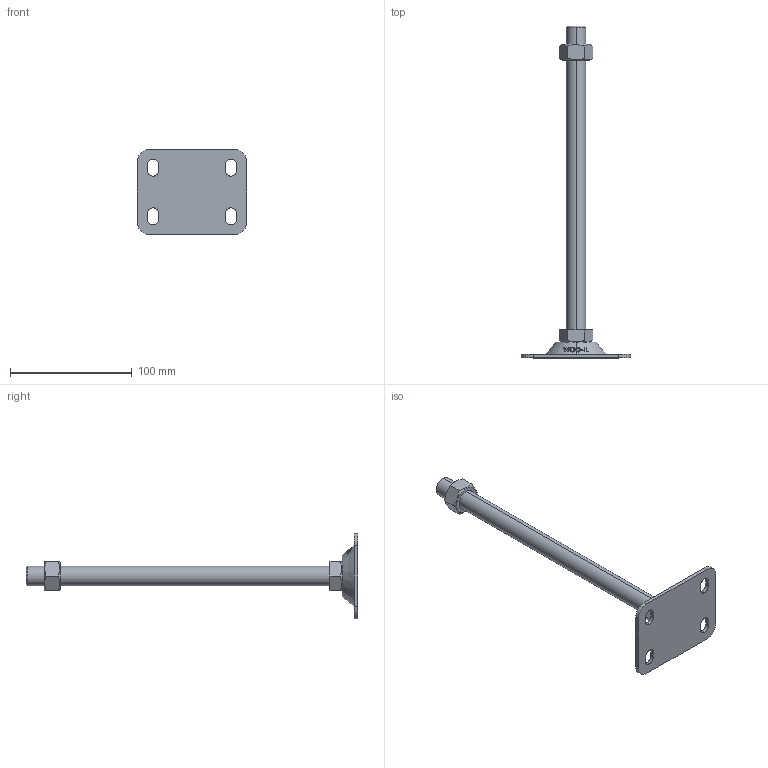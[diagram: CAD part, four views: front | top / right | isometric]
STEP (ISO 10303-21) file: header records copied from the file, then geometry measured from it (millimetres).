
FILE_DESCRIPTION (( 'STEP AP214' ), '1' );
FILE_NAME ('FABL7090-M16-250.step', '2021-03-28T23:52:00', ( '' ), ( '' ), 'SwSTEP 2.0', 'SolidWorks 2019', '' );
FILE_SCHEMA (( 'AUTOMOTIVE_DESIGN' ));
Length unit declared in the file: millimetre
Products named in the file (2): FABL7090-M16-250
Bounding box: 90 x 273 x 70 mm (x, y, z)
Volume: 90293 mm3; surface area: 29366.5 mm2
Topology: 2 solids, 2 shells, 146 faces, 384 edges, 252 vertices
Faces by surface type: plane 58, cylinder 48, cone 22, bspline 18
Entity records: 6084 total; most frequent: CARTESIAN_POINT 2656, ORIENTED_EDGE 768, DIRECTION 582, EDGE_CURVE 384, VERTEX_POINT 252, AXIS2_PLACEMENT_3D 210, EDGE_LOOP 166, VECTOR 162
